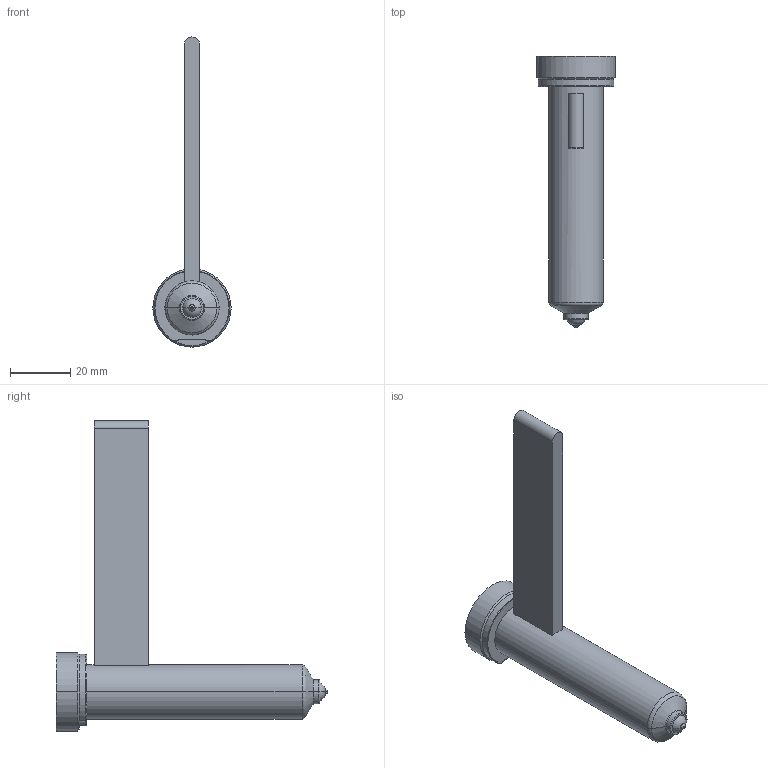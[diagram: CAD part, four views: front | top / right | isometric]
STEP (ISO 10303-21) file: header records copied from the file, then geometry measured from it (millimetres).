
FILE_DESCRIPTION((''),'2;1');
FILE_NAME('EO04_PG-BL_WR_080_COT','2024-02-19T10:59:27',('sundharh'),(''),'CREO PARAMETRIC BY PTC INC, 2023154','CREO PARAMETRIC BY PTC INC, 2023154','');
FILE_SCHEMA(('CONFIG_CONTROL_DESIGN'));
Length unit declared in the file: millimetre
Products named in the file (1): EO04_PG-BL_WR_080_COT
Bounding box: 26 x 90 x 103 mm (x, y, z)
Volume: 31375.7 mm3; surface area: 9715.2 mm2
Topology: 1 solids, 1 shells, 40 faces, 85 edges, 50 vertices
Faces by surface type: cylinder 13, plane 10, torus 9, cone 6, sphere 2
Entity records: 1195 total; most frequent: CARTESIAN_POINT 265, DIRECTION 209, ORIENTED_EDGE 170, AXIS2_PLACEMENT_3D 90, EDGE_CURVE 85, VERTEX_POINT 50, CIRCLE 50, EDGE_LOOP 43
